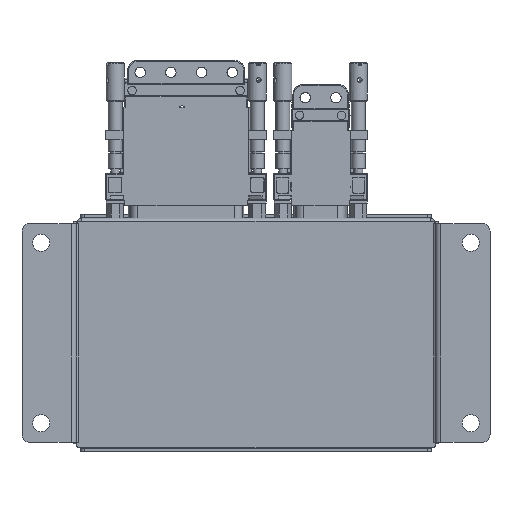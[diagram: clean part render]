
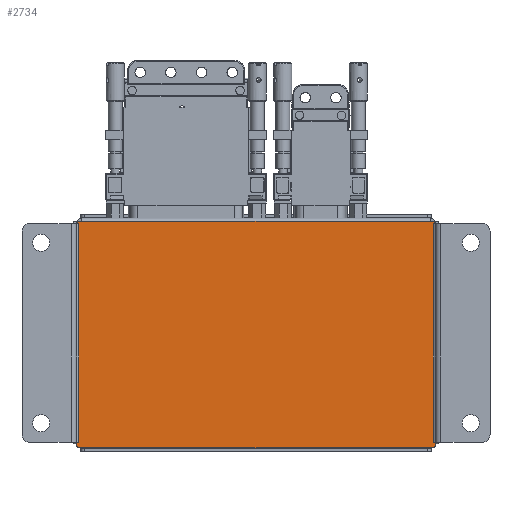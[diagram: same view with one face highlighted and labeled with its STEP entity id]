
A CAD part, front view. The second image highlights one B-rep face of the part: STEP entity #2734.
In plain terms, the highlighted planar face has unit normal (0, -1, 0).
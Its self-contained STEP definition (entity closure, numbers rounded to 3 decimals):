
#1649 = LINE ( 'NONE', #14013, #1677 ) ;
#1668 = LINE ( 'NONE', #14019, #1674 ) ;
#1672 = LINE ( 'NONE', #14012, #1681 ) ;
#1674 = VECTOR ( 'NONE', #14020, 1000. ) ;
#1676 = CIRCLE ( 'NONE', #63124, 1.2 ) ;
#1677 = VECTOR ( 'NONE', #14021, 1000. ) ;
#1679 = LINE ( 'NONE', #14031, #1696 ) ;
#1681 = VECTOR ( 'NONE', #14023, 1000. ) ;
#1683 = LINE ( 'NONE', #14024, #1687 ) ;
#1685 = CIRCLE ( 'NONE', #63125, 1.2 ) ;
#1687 = VECTOR ( 'NONE', #14022, 1000. ) ;
#1689 = LINE ( 'NONE', #14025, #1692 ) ;
#1691 = LINE ( 'NONE', #14030, #1700 ) ;
#1692 = VECTOR ( 'NONE', #14026, 1000. ) ;
#1694 = LINE ( 'NONE', #14035, #1704 ) ;
#1696 = VECTOR ( 'NONE', #14036, 1000. ) ;
#1700 = VECTOR ( 'NONE', #14038, 1000. ) ;
#1702 = CIRCLE ( 'NONE', #63126, 1.2 ) ;
#1704 = VECTOR ( 'NONE', #14040, 1000. ) ;
#1706 = LINE ( 'NONE', #14039, #1709 ) ;
#1707 = CIRCLE ( 'NONE', #63127, 1.2 ) ;
#1709 = VECTOR ( 'NONE', #14037, 1000. ) ;
#1711 = LINE ( 'NONE', #14041, #1715 ) ;
#1715 = VECTOR ( 'NONE', #14042, 1000. ) ;
#2734 = ADVANCED_FACE ( 'NONE', ( #28555 ), #33595, .T. ) ;
#5563 = EDGE_LOOP ( 'NONE', ( #18864, #18866, #18868, #18870, #18872, #18874, #18876, #18878, #18880, #18882, #18884, #18886, #18888, #18890 ) ) ;
#13534 = CARTESIAN_POINT ( 'NONE',  ( -49.806, 1.902, -7.531 ) ) ;
#13552 = CARTESIAN_POINT ( 'NONE',  ( 68.47, 1.902, -7.531 ) ) ;
#13553 = CARTESIAN_POINT ( 'NONE',  ( 67.619, 1.902, -7.531 ) ) ;
#13558 = CARTESIAN_POINT ( 'NONE',  ( -50.656, 1.902, -7.531 ) ) ;
#13559 = CARTESIAN_POINT ( 'NONE',  ( 68.377, 1.902, 64.909 ) ) ;
#13560 = CARTESIAN_POINT ( 'NONE',  ( 67.619, 1.902, 64.909 ) ) ;
#13561 = CARTESIAN_POINT ( 'NONE',  ( -49.806, 1.902, 64.909 ) ) ;
#13562 = CARTESIAN_POINT ( 'NONE',  ( 67.27, 1.902, 65.646 ) ) ;
#13563 = CARTESIAN_POINT ( 'NONE',  ( -49.456, 1.902, 65.646 ) ) ;
#13564 = CARTESIAN_POINT ( 'NONE',  ( -50.563, 1.902, 64.909 ) ) ;
#13568 = CARTESIAN_POINT ( 'NONE',  ( -50.656, 1.902, -8.084 ) ) ;
#13569 = CARTESIAN_POINT ( 'NONE',  ( -49.456, 1.902, -9.284 ) ) ;
#13570 = CARTESIAN_POINT ( 'NONE',  ( 67.27, 1.902, -9.284 ) ) ;
#13571 = CARTESIAN_POINT ( 'NONE',  ( 68.47, 1.902, -8.084 ) ) ;
#14012 = CARTESIAN_POINT ( 'NONE',  ( 67.619, 1.902, 64.909 ) ) ;
#14013 = CARTESIAN_POINT ( 'NONE',  ( 67.619, 1.902, 65.646 ) ) ;
#14019 = CARTESIAN_POINT ( 'NONE',  ( 67.619, 1.902, -7.531 ) ) ;
#14020 = DIRECTION ( 'NONE',  ( 1., 0., 0. ) ) ;
#14021 = DIRECTION ( 'NONE',  ( 0., 0., 1. ) ) ;
#14022 = DIRECTION ( 'NONE',  ( -1., 0., 0. ) ) ;
#14023 = DIRECTION ( 'NONE',  ( -1., 0., 0. ) ) ;
#14024 = CARTESIAN_POINT ( 'NONE',  ( 67.27, 1.902, 65.646 ) ) ;
#14025 = CARTESIAN_POINT ( 'NONE',  ( -49.806, 1.902, 64.909 ) ) ;
#14026 = DIRECTION ( 'NONE',  ( -1., 0., 0. ) ) ;
#14027 = CARTESIAN_POINT ( 'NONE',  ( 67.27, 1.902, 64.446 ) ) ;
#14028 = DIRECTION ( 'NONE',  ( 0., -1., 0. ) ) ;
#14029 = DIRECTION ( 'NONE',  ( 0., 0., 1. ) ) ;
#14030 = CARTESIAN_POINT ( 'NONE',  ( -49.806, 1.902, -7.531 ) ) ;
#14031 = CARTESIAN_POINT ( 'NONE',  ( -49.806, 1.902, 65.646 ) ) ;
#14032 = CARTESIAN_POINT ( 'NONE',  ( -49.456, 1.902, 64.446 ) ) ;
#14033 = DIRECTION ( 'NONE',  ( 0., -1., 0. ) ) ;
#14034 = DIRECTION ( 'NONE',  ( 0., 0., -1. ) ) ;
#14035 = CARTESIAN_POINT ( 'NONE',  ( -50.656, 1.902, 64.446 ) ) ;
#14036 = DIRECTION ( 'NONE',  ( 0., 0., 1. ) ) ;
#14037 = DIRECTION ( 'NONE',  ( 1., 0., 0. ) ) ;
#14038 = DIRECTION ( 'NONE',  ( 1., 0., 0. ) ) ;
#14039 = CARTESIAN_POINT ( 'NONE',  ( -49.456, 1.902, -9.284 ) ) ;
#14040 = DIRECTION ( 'NONE',  ( 0., 0., -1. ) ) ;
#14041 = CARTESIAN_POINT ( 'NONE',  ( 68.47, 1.902, -8.084 ) ) ;
#14042 = DIRECTION ( 'NONE',  ( 0., 0., 1. ) ) ;
#14043 = CARTESIAN_POINT ( 'NONE',  ( -49.456, 1.902, -8.084 ) ) ;
#14044 = DIRECTION ( 'NONE',  ( 0., -1., 0. ) ) ;
#14045 = DIRECTION ( 'NONE',  ( 0., 0., 1. ) ) ;
#14047 = CARTESIAN_POINT ( 'NONE',  ( 67.27, 1.902, -8.084 ) ) ;
#14048 = DIRECTION ( 'NONE',  ( 0., -1., 0. ) ) ;
#14049 = DIRECTION ( 'NONE',  ( 0., 0., -1. ) ) ;
#18864 = ORIENTED_EDGE ( 'NONE', *, *, #23875, .F. ) ;
#18866 = ORIENTED_EDGE ( 'NONE', *, *, #23876, .T. ) ;
#18868 = ORIENTED_EDGE ( 'NONE', *, *, #23877, .F. ) ;
#18870 = ORIENTED_EDGE ( 'NONE', *, *, #23878, .T. ) ;
#18872 = ORIENTED_EDGE ( 'NONE', *, *, #23879, .T. ) ;
#18874 = ORIENTED_EDGE ( 'NONE', *, *, #23880, .T. ) ;
#18876 = ORIENTED_EDGE ( 'NONE', *, *, #23881, .F. ) ;
#18878 = ORIENTED_EDGE ( 'NONE', *, *, #23882, .F. ) ;
#18880 = ORIENTED_EDGE ( 'NONE', *, *, #23883, .F. ) ;
#18882 = ORIENTED_EDGE ( 'NONE', *, *, #23884, .T. ) ;
#18884 = ORIENTED_EDGE ( 'NONE', *, *, #23885, .T. ) ;
#18886 = ORIENTED_EDGE ( 'NONE', *, *, #23886, .T. ) ;
#18888 = ORIENTED_EDGE ( 'NONE', *, *, #23887, .T. ) ;
#18890 = ORIENTED_EDGE ( 'NONE', *, *, #23888, .T. ) ;
#21475 = VERTEX_POINT ( 'NONE', #13534 ) ;
#21511 = VERTEX_POINT ( 'NONE', #13552 ) ;
#21513 = VERTEX_POINT ( 'NONE', #13553 ) ;
#21523 = VERTEX_POINT ( 'NONE', #13558 ) ;
#21525 = VERTEX_POINT ( 'NONE', #13559 ) ;
#21527 = VERTEX_POINT ( 'NONE', #13560 ) ;
#21529 = VERTEX_POINT ( 'NONE', #13561 ) ;
#21531 = VERTEX_POINT ( 'NONE', #13562 ) ;
#21533 = VERTEX_POINT ( 'NONE', #13563 ) ;
#21535 = VERTEX_POINT ( 'NONE', #13564 ) ;
#21543 = VERTEX_POINT ( 'NONE', #13568 ) ;
#21545 = VERTEX_POINT ( 'NONE', #13569 ) ;
#21547 = VERTEX_POINT ( 'NONE', #13570 ) ;
#21549 = VERTEX_POINT ( 'NONE', #13571 ) ;
#23875 = EDGE_CURVE ( 'NONE', #21513, #21511, #1668, .T. ) ;
#23876 = EDGE_CURVE ( 'NONE', #21513, #21527, #1649, .T. ) ;
#23877 = EDGE_CURVE ( 'NONE', #21525, #21527, #1672, .T. ) ;
#23878 = EDGE_CURVE ( 'NONE', #21525, #21531, #1676, .T. ) ;
#23879 = EDGE_CURVE ( 'NONE', #21531, #21533, #1683, .T. ) ;
#23880 = EDGE_CURVE ( 'NONE', #21533, #21535, #1685, .T. ) ;
#23881 = EDGE_CURVE ( 'NONE', #21529, #21535, #1689, .T. ) ;
#23882 = EDGE_CURVE ( 'NONE', #21475, #21529, #1679, .T. ) ;
#23883 = EDGE_CURVE ( 'NONE', #21523, #21475, #1691, .T. ) ;
#23884 = EDGE_CURVE ( 'NONE', #21523, #21543, #1694, .T. ) ;
#23885 = EDGE_CURVE ( 'NONE', #21543, #21545, #1702, .T. ) ;
#23886 = EDGE_CURVE ( 'NONE', #21545, #21547, #1706, .T. ) ;
#23887 = EDGE_CURVE ( 'NONE', #21547, #21549, #1707, .T. ) ;
#23888 = EDGE_CURVE ( 'NONE', #21549, #21511, #1711, .T. ) ;
#24870 = AXIS2_PLACEMENT_3D ( 'NONE', #33588, #33597, #33598 ) ;
#28555 = FACE_OUTER_BOUND ( 'NONE', #5563, .T. ) ;
#33588 = CARTESIAN_POINT ( 'NONE',  ( -68.563, 1.902, 65.646 ) ) ;
#33595 = PLANE ( 'NONE',  #24870 ) ;
#33597 = DIRECTION ( 'NONE',  ( 0., -1., 0. ) ) ;
#33598 = DIRECTION ( 'NONE',  ( 0., 0., -1. ) ) ;
#63124 = AXIS2_PLACEMENT_3D ( 'NONE', #14027, #14028, #14029 ) ;
#63125 = AXIS2_PLACEMENT_3D ( 'NONE', #14032, #14033, #14034 ) ;
#63126 = AXIS2_PLACEMENT_3D ( 'NONE', #14043, #14044, #14045 ) ;
#63127 = AXIS2_PLACEMENT_3D ( 'NONE', #14047, #14048, #14049 ) ;
